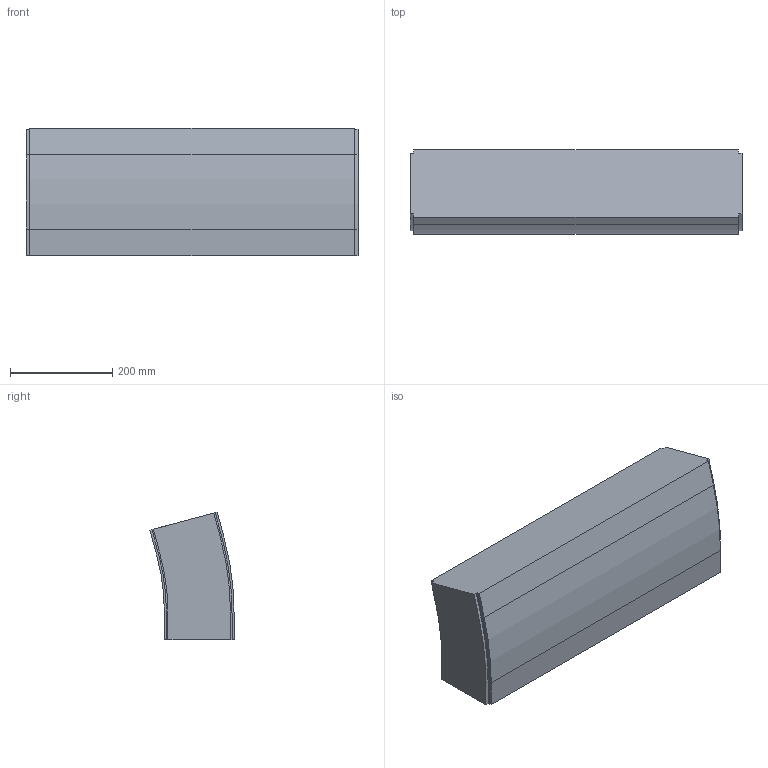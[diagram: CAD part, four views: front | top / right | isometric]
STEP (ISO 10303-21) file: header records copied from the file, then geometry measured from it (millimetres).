
FILE_DESCRIPTION (( 'STEP AP214' ), '1' );
FILE_NAME ('FS-MTC2-150-INOX verticaalbocht.650 15°.STEP', '2017-02-08T12:42:09', ( '' ), ( '' ), 'SwSTEP 2.0', 'SolidWorks 2016', '' );
FILE_SCHEMA (( 'AUTOMOTIVE_DESIGN' ));
Length unit declared in the file: millimetre
Products named in the file (1): FS-MTC2-150-INOX verticaalbocht.650 15°
Bounding box: 650.5 x 164.8 x 250.28 mm (x, y, z)
Volume: 20900064.2 mm3; surface area: 548500.6 mm2
Topology: 1 solids, 1 shells, 42 faces, 120 edges, 80 vertices
Faces by surface type: plane 32, cylinder 10
Entity records: 1398 total; most frequent: CARTESIAN_POINT 243, ORIENTED_EDGE 240, DIRECTION 226, EDGE_CURVE 120, VECTOR 100, LINE 100, VERTEX_POINT 80, AXIS2_PLACEMENT_3D 63
